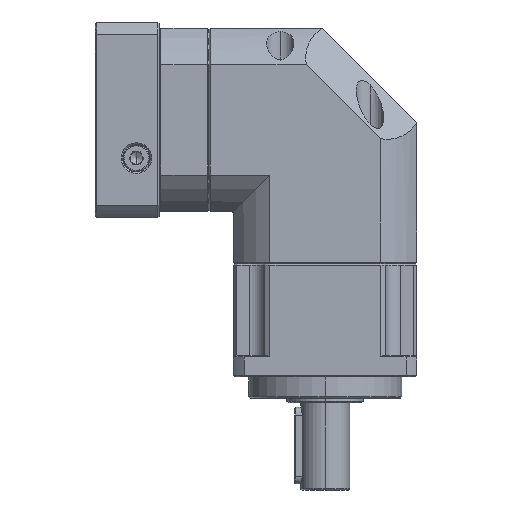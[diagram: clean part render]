
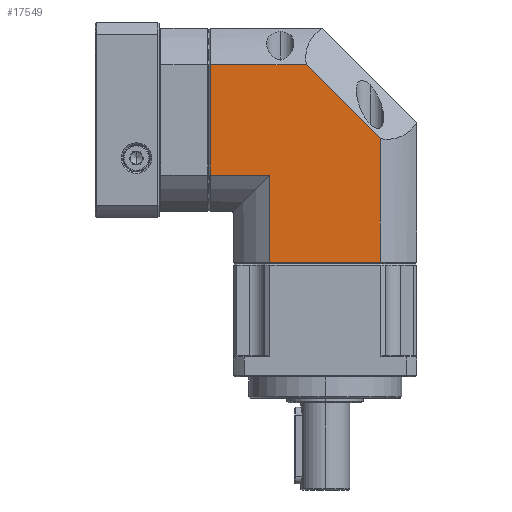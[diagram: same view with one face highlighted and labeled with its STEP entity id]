
A CAD part, left-side view. The second image highlights one B-rep face of the part: STEP entity #17549.
In plain terms, the highlighted planar face has unit normal (-1, 0, 0).
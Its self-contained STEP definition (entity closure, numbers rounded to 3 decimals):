
#22 = ORIENTED_EDGE ( 'NONE', *, *, #69720, .F. ) ;
#1802 = ORIENTED_EDGE ( 'NONE', *, *, #10645, .F. ) ;
#2623 = CARTESIAN_POINT ( 'NONE',  ( 0., 11.972, 44.5 ) ) ;
#5006 = CARTESIAN_POINT ( 'NONE',  ( 0., 11.972, 121. ) ) ;
#5804 = DIRECTION ( 'NONE',  ( 0., 0., 1. ) ) ;
#9034 = CARTESIAN_POINT ( 'NONE',  ( 0., 30., 44.5 ) ) ;
#10645 = EDGE_CURVE ( 'NONE', #76163, #65167, #59425, .T. ) ;
#11264 = DIRECTION ( 'NONE',  ( 0., -1., 0. ) ) ;
#11313 = EDGE_CURVE ( 'NONE', #86120, #14927, #29770, .T. ) ;
#12932 = CARTESIAN_POINT ( 'NONE',  ( 0., 68., 44. ) ) ;
#13078 = VECTOR ( 'NONE', #75283, 1000. ) ;
#14927 = VERTEX_POINT ( 'NONE', #81182 ) ;
#16838 = ORIENTED_EDGE ( 'NONE', *, *, #11313, .F. ) ;
#17549 = ADVANCED_FACE ( 'NONE', ( #81863 ), #39665, .F. ) ;
#17732 = CARTESIAN_POINT ( 'NONE',  ( 0., 48.028, 44. ) ) ;
#20238 = EDGE_CURVE ( 'NONE', #25898, #80390, #44895, .T. ) ;
#21133 = LINE ( 'NONE', #5006, #55669 ) ;
#24212 = CARTESIAN_POINT ( 'NONE',  ( 0., 36.17, 109.028 ) ) ;
#25093 = EDGE_LOOP ( 'NONE', ( #78223, #65004, #16838, #22, #56586, #1802, #36671 ) ) ;
#25457 = CARTESIAN_POINT ( 'NONE',  ( 0., 67.5, 44. ) ) ;
#25898 = VERTEX_POINT ( 'NONE', #35200 ) ;
#26500 = EDGE_CURVE ( 'NONE', #25898, #76163, #45892, .T. ) ;
#27623 = CARTESIAN_POINT ( 'NONE',  ( 0., 36.17, 109.028 ) ) ;
#29642 = AXIS2_PLACEMENT_3D ( 'NONE', #12932, #79990, #66534 ) ;
#29770 = LINE ( 'NONE', #27623, #13078 ) ;
#31389 = LINE ( 'NONE', #78637, #77521 ) ;
#33522 = CARTESIAN_POINT ( 'NONE',  ( 0., 68., 72.972 ) ) ;
#33828 = DIRECTION ( 'NONE',  ( 0., 1., 0. ) ) ;
#35200 = CARTESIAN_POINT ( 'NONE',  ( 0., 48.028, 44.5 ) ) ;
#35359 = VECTOR ( 'NONE', #64294, 1000. ) ;
#36671 = ORIENTED_EDGE ( 'NONE', *, *, #26500, .F. ) ;
#39665 = PLANE ( 'NONE',  #29642 ) ;
#41406 = CARTESIAN_POINT ( 'NONE',  ( 0., 67.5, 72.972 ) ) ;
#44895 = LINE ( 'NONE', #9034, #51198 ) ;
#45892 = LINE ( 'NONE', #17732, #35359 ) ;
#51198 = VECTOR ( 'NONE', #76090, 1000. ) ;
#53846 = VECTOR ( 'NONE', #5804, 1000. ) ;
#55669 = VECTOR ( 'NONE', #56583, 1000. ) ;
#56583 = DIRECTION ( 'NONE',  ( 0., 0., -1. ) ) ;
#56586 = ORIENTED_EDGE ( 'NONE', *, *, #86761, .F. ) ;
#59425 = LINE ( 'NONE', #33522, #82350 ) ;
#64294 = DIRECTION ( 'NONE',  ( 0., 0., 1. ) ) ;
#65004 = ORIENTED_EDGE ( 'NONE', *, *, #80389, .F. ) ;
#65167 = VERTEX_POINT ( 'NONE', #41406 ) ;
#66534 = DIRECTION ( 'NONE',  ( 0., 0., 1. ) ) ;
#69720 = EDGE_CURVE ( 'NONE', #71401, #86120, #31389, .T. ) ;
#71401 = VERTEX_POINT ( 'NONE', #75039 ) ;
#75039 = CARTESIAN_POINT ( 'NONE',  ( 0., 67.5, 109.028 ) ) ;
#75283 = DIRECTION ( 'NONE',  ( 0., -0.707, -0.707 ) ) ;
#76090 = DIRECTION ( 'NONE',  ( 0., -1., 0. ) ) ;
#76163 = VERTEX_POINT ( 'NONE', #78718 ) ;
#77521 = VECTOR ( 'NONE', #11264, 1000. ) ;
#78223 = ORIENTED_EDGE ( 'NONE', *, *, #20238, .T. ) ;
#78637 = CARTESIAN_POINT ( 'NONE',  ( 0., 68., 109.028 ) ) ;
#78718 = CARTESIAN_POINT ( 'NONE',  ( 0., 48.028, 72.972 ) ) ;
#79990 = DIRECTION ( 'NONE',  ( 1., 0., 0. ) ) ;
#80389 = EDGE_CURVE ( 'NONE', #14927, #80390, #21133, .T. ) ;
#80390 = VERTEX_POINT ( 'NONE', #2623 ) ;
#81182 = CARTESIAN_POINT ( 'NONE',  ( 0., 11.972, 84.83 ) ) ;
#81863 = FACE_OUTER_BOUND ( 'NONE', #25093, .T. ) ;
#82350 = VECTOR ( 'NONE', #33828, 1000. ) ;
#85163 = LINE ( 'NONE', #25457, #53846 ) ;
#86120 = VERTEX_POINT ( 'NONE', #24212 ) ;
#86761 = EDGE_CURVE ( 'NONE', #65167, #71401, #85163, .T. ) ;
